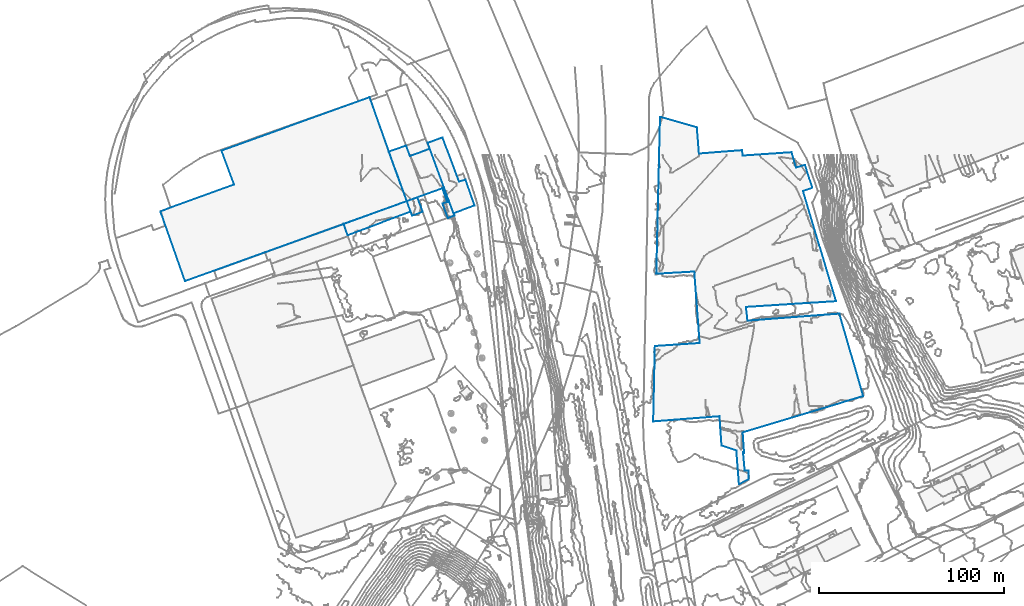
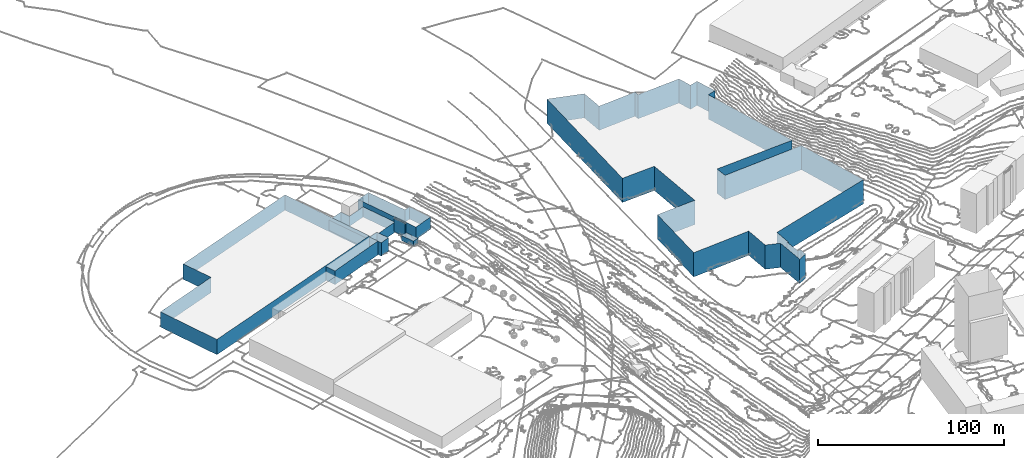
# Not in any storey, part 58 of 419: 8 walls.
"""IFC2X3 model written with IfcOpenShell, lengths in metres."""

from ifc_helpers import new_model, si_unit, frame, origin_with_axes, place, context, subcontext, project, faceted_brep, element, save


model = new_model("IFC2X3")

# Units and contexts
model_context = context("Model", 3, precision=1e-05, world=origin_with_axes())
body_context = subcontext(model_context, "Body", "Model", "MODEL_VIEW")
ifc_project = project(units=[si_unit("AREAUNIT", "SQUARE_METRE"), si_unit("LENGTHUNIT", "METRE")], contexts=[model_context])

# Walls
wall_1_placement = place(None, frame((69.6920204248, 1007.3976909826, 20.453999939), z_axis=(0.0, 0.0, 1.0), x_axis=(1.0, 0.0, 0.0)))
element("IfcWall", 1, at=wall_1_placement, Name="Mur 0", context=body_context, shape_type="Brep", body=[
    faceted_brep([(2.9, -7.7999999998, 8.746000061), (0.0, 0.0, 8.746000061), (2.9, -7.7999999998, 0.0), (0.0, 0.0, 0.0), (8.6, -5.7000000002, 8.746000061), (8.6, -5.7000000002, 0.0), (5.8, 2.0, 8.746000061), (5.8, 2.0, 0.0)], [[[0, 1, 2]], [[2, 1, 3]], [[4, 0, 5]], [[5, 0, 2]], [[1, 6, 3]], [[3, 6, 7]], [[6, 4, 7]], [[7, 4, 5]]]),
])
wall_2_placement = place(None, frame((88.9920204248, 1006.1976909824, 20.8479997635), z_axis=(0.0, 0.0, 1.0), x_axis=(1.0, 0.0, 0.0)))
element("IfcWall", 2, at=wall_2_placement, Name="Mur 0", context=body_context, shape_type="Brep", body=[
    faceted_brep([(0.0, 0.0, 3.3520002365), (3.5, 1.1000000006, 3.3520002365), (0.0, 0.0, 0.0), (3.5, 1.1000000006, 0.0), (2.9, -7.7999999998, 3.3520002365), (2.9, -7.7999999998, 0.0), (6.4, -6.5, 3.3520002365), (6.4, -6.5, 0.0)], [[[0, 1, 2]], [[2, 1, 3]], [[4, 0, 5]], [[5, 0, 2]], [[1, 6, 3]], [[3, 6, 7]], [[6, 4, 7]], [[7, 4, 5]]]),
])
wall_3_placement = place(None, frame((88.8920204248, 1014.3976909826, 21.9880004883), z_axis=(0.0, 0.0, 1.0), x_axis=(1.0, 0.0, 0.0)))
element("IfcWall", 3, at=wall_3_placement, Name="Mur 0", context=body_context, shape_type="Brep", body=[
    faceted_brep([(0.0, 0.0, 8.7119995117), (0.8999999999, 0.2999999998, 8.7119995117), (0.0, 0.0, 0.0), (0.8999999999, 0.2999999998, 0.0), (2.7, -7.4000000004, 8.7119995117), (2.7, -7.4000000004, 0.0), (3.6, -7.0999999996, 8.7119995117), (3.6, -7.0999999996, 0.0)], [[[0, 1, 2]], [[2, 1, 3]], [[4, 0, 5]], [[5, 0, 2]], [[1, 6, 3]], [[3, 6, 7]], [[6, 4, 7]], [[7, 4, 5]]]),
])
wall_4_placement = place(None, frame((35.5920204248, 995.1976909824, 20.2259994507), z_axis=(0.0, 0.0, 1.0), x_axis=(1.0, 0.0, 0.0)))
element("IfcWall", 4, at=wall_4_placement, Name="Mur 0", context=body_context, shape_type="Brep", body=[
    faceted_brep([(0.0, 0.0, 9.0740005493), (34.1, 12.2000000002, 9.0740005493), (0.0, 0.0, 0.0), (34.1, 12.2000000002, 0.0), (2.1, -6.2000000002, 9.0740005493), (2.1, -6.2000000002, 0.0), (36.2, 6.6000000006, 9.0740005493), (36.2, 6.6000000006, 0.0)], [[[0, 1, 2]], [[2, 1, 3]], [[4, 0, 5]], [[5, 0, 2]], [[1, 6, 3]], [[3, 6, 7]], [[6, 4, 7]], [[7, 4, 5]]]),
])
wall_5_placement = place(None, frame((-63.3079795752, 1001.8976909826, 19.9179998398), z_axis=(0.0, 0.0, 1.0), x_axis=(1.0, 0.0, 0.0)))
element("IfcWall", 5, at=wall_5_placement, Name="Mur 0", context=body_context, shape_type="Brep", body=[
    faceted_brep([(0.0, 0.0, 10.0820001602), (5.6, 2.0999999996, 10.0820001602), (0.0, 0.0, 0.0), (5.6, 2.0999999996, 0.0), (13.3, -37.5999999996, 10.0820001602), (13.3, -37.5999999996, 0.0), (133.0, 5.5, 10.0820001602), (133.0, 5.5, 0.0), (112.9, 61.5999999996, 10.0820001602), (112.9, 61.5999999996, 0.0), (33.0, 32.7999999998, 10.0820001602), (33.0, 32.7999999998, 0.0), (39.8, 14.5, 10.0820001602), (39.8, 14.5, 0.0)], [[[0, 1, 2]], [[2, 1, 3]], [[4, 0, 5]], [[5, 0, 2]], [[6, 4, 7]], [[7, 4, 5]], [[8, 6, 9]], [[9, 6, 7]], [[10, 8, 11]], [[11, 8, 9]], [[1, 12, 3]], [[3, 12, 13]], [[12, 10, 13]], [[13, 10, 11]]]),
])
wall_6_placement = place(None, frame((59.9920204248, 1034.0976909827, 20.8630004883), z_axis=(0.0, 0.0, 1.0), x_axis=(1.0, 0.0, 0.0)))
element("IfcWall", 6, at=wall_6_placement, Name="Mur 0", context=body_context, shape_type="Brep", body=[
    faceted_brep([(9.7, -26.7000000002, 6.7369995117), (0.0, 0.0, 6.7369995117), (9.7, -26.7000000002, 0.0), (0.0, 0.0, 0.0), (29.7999999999, -19.4000000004, 6.7369995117), (29.7999999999, -19.4000000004, 0.0), (22.1, 1.5999999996, 6.7369995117), (22.1, 1.5999999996, 0.0), (11.4, -2.2999999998, 6.7369995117), (11.4, -2.2999999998, 0.0), (9.4, 3.2999999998, 6.7369995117), (9.4, 3.2999999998, 0.0)], [[[0, 1, 2]], [[2, 1, 3]], [[4, 0, 5]], [[5, 0, 2]], [[6, 4, 7]], [[7, 4, 5]], [[8, 6, 9]], [[9, 6, 7]], [[1, 10, 3]], [[3, 10, 11]], [[10, 8, 11]], [[11, 8, 9]]]),
])
wall_7_placement = place(None, frame((80.8920204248, 1038.8976909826, 22.8500003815), z_axis=(0.0, 0.0, 1.0), x_axis=(1.0, 0.0, 0.0)))
element("IfcWall", 7, at=wall_7_placement, Name="Mur 0", context=body_context, shape_type="Brep", body=[
    faceted_brep([(14.0, -38.0, 8.0499996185), (1.2, -3.2000000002, 8.0499996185), (14.0, -38.0, 0.0), (1.2, -3.2000000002, 0.0), (25.3999999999, -33.7999999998, 8.0499996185), (25.3999999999, -33.7999999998, 0.0), (20.5, -19.9000000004, 8.0499996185), (20.5, -19.9000000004, 0.0), (17.0, -20.9000000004, 8.0499996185), (17.0, -20.9000000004, 0.0), (8.1, 2.9000000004, 8.0499996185), (8.1, 2.9000000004, 0.0), (0.0, 0.0, 8.0499996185), (0.0, 0.0, 0.0)], [[[0, 1, 2]], [[2, 1, 3]], [[4, 0, 5]], [[5, 0, 2]], [[6, 4, 7]], [[7, 4, 5]], [[8, 6, 9]], [[9, 6, 7]], [[10, 8, 11]], [[11, 8, 9]], [[1, 12, 3]], [[3, 12, 13]], [[12, 10, 13]], [[13, 10, 11]]]),
])
wall_8_placement = place(None, frame((202.6920204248, 888.4976909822, 28.5593996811), z_axis=(0.0, 0.0, 1.0), x_axis=(1.0, 0.0, 0.0)))
element("IfcWall", 8, at=wall_8_placement, Name="Mur 0", context=body_context, shape_type="Brep", body=[
    faceted_brep([(35.8, 2.8000000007, 15.9406003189), (0.0, 0.0, 15.9406003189), (35.8, 2.8000000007, 0.0), (0.0, 0.0, 0.0), (36.9, -13.0, 15.9406003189), (36.9, -13.0, 0.0), (44.9, -15.6999999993, 15.9406003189), (44.9, -15.6999999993, 0.0), (46.3, -33.8999999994, 15.9406003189), (46.3, -33.8999999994, 0.0), (51.5, -31.1999999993, 15.9406003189), (51.5, -31.1999999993, 0.0), (51.4, -26.3999999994, 15.9406003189), (51.4, -26.3999999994, 0.0), (49.4, -26.5, 15.9406003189), (49.4, -26.5, 0.0), (48.5, -16.5999999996, 15.9406003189), (48.5, -16.5999999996, 0.0), (49.1, -17.0999999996, 15.9406003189), (49.1, -17.0999999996, 0.0), (48.3, -5.8999999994, 15.9406003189), (48.3, -5.8999999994, 0.0), (113.4, 13.7000000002, 15.9406003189), (113.4, 13.7000000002, 0.0), (100.5, 58.2000000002, 15.9406003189), (100.5, 58.2000000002, 0.0), (50.9, 54.4000000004, 15.9406003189), (50.9, 54.4000000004, 0.0), (50.1, 61.8000000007, 15.9406003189), (50.1, 61.8000000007, 0.0), (98.7000000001, 64.9000000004, 15.9406003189), (98.7000000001, 64.9000000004, 0.0), (80.9, 124.4000000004, 15.9406003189), (80.9, 124.4000000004, 0.0), (85.9, 126.1000000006, 15.9406003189), (85.9, 126.1000000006, 0.0), (82.0, 138.5, 15.9406003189), (82.0, 138.5, 0.0), (77.1, 137.1000000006, 15.9406003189), (77.1, 137.1000000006, 0.0), (74.7000000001, 145.3000000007, 15.9406003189), (74.7000000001, 145.3000000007, 0.0), (48.3, 143.5, 15.9406003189), (48.3, 143.5, 0.0), (48.0, 146.4000000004, 15.9406003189), (48.0, 146.4000000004, 0.0), (24.7000000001, 144.6000000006, 15.9406003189), (24.7000000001, 144.6000000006, 0.0), (23.6, 158.7000000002, 15.9406003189), (23.6, 158.7000000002, 0.0), (3.7000000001, 164.4000000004, 15.9406003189), (3.7000000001, 164.4000000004, 0.0), (1.7000000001, 79.7000000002, 15.9406003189), (1.7000000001, 79.7000000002, 0.0), (22.2000000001, 80.9000000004, 15.9406003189), (22.2000000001, 80.9000000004, 0.0), (25.1, 42.3000000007, 15.9406003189), (25.1, 42.3000000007, 0.0), (0.9, 40.7000000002, 15.9406003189), (0.9, 40.7000000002, 0.0)], [[[0, 1, 2]], [[2, 1, 3]], [[4, 0, 5]], [[5, 0, 2]], [[6, 4, 7]], [[7, 4, 5]], [[8, 6, 9]], [[9, 6, 7]], [[10, 8, 11]], [[11, 8, 9]], [[12, 10, 13]], [[13, 10, 11]], [[14, 12, 15]], [[15, 12, 13]], [[16, 14, 17]], [[17, 14, 15]], [[18, 16, 19]], [[19, 16, 17]], [[20, 18, 21]], [[21, 18, 19]], [[22, 20, 23]], [[23, 20, 21]], [[24, 22, 25]], [[25, 22, 23]], [[26, 24, 27]], [[27, 24, 25]], [[28, 26, 29]], [[29, 26, 27]], [[30, 28, 31]], [[31, 28, 29]], [[32, 30, 33]], [[33, 30, 31]], [[34, 32, 35]], [[35, 32, 33]], [[36, 34, 37]], [[37, 34, 35]], [[38, 36, 39]], [[39, 36, 37]], [[40, 38, 41]], [[41, 38, 39]], [[42, 40, 43]], [[43, 40, 41]], [[44, 42, 45]], [[45, 42, 43]], [[46, 44, 47]], [[47, 44, 45]], [[48, 46, 49]], [[49, 46, 47]], [[50, 48, 51]], [[51, 48, 49]], [[52, 50, 53]], [[53, 50, 51]], [[54, 52, 55]], [[55, 52, 53]], [[56, 54, 57]], [[57, 54, 55]], [[1, 58, 3]], [[3, 58, 59]], [[58, 56, 59]], [[59, 56, 57]]]),
])

save(model, "model.ifc")
